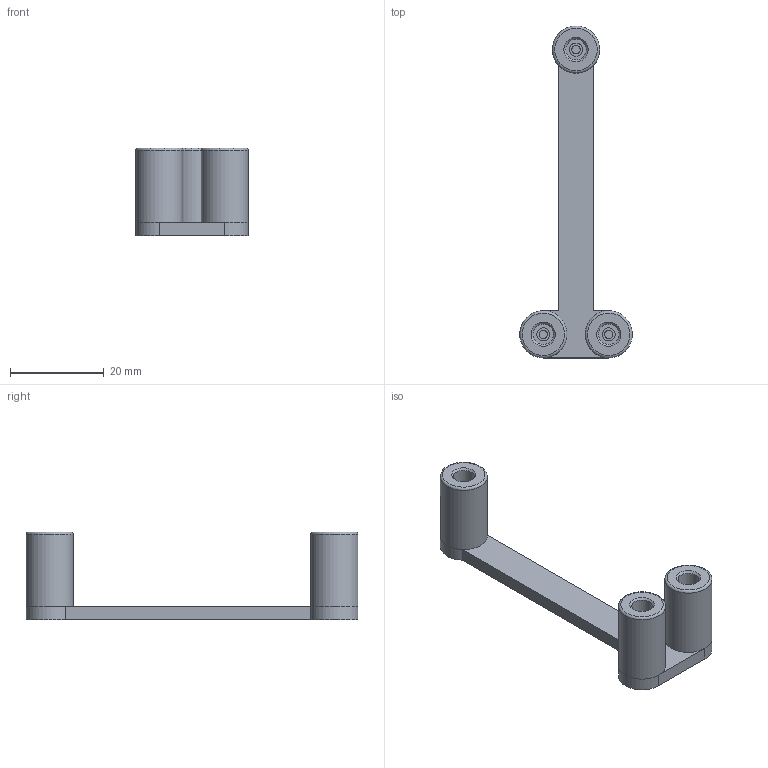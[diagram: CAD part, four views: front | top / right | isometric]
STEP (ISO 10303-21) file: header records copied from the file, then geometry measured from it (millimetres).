
FILE_DESCRIPTION(/* description */ (''),/* implementation_level */ '2;1');
FILE_NAME(/* name */ 'V:\Flow\Inventor\PEEK\Mischertest\Kreuzmischer_PEEK_1,8mm - 0,5Kreuz.stp',/* time_stamp */ '2019-12-20T09:20:17+01:00',/* author */ ('JN'),/* organization */ (''),/* preprocessor_version */ 'ST-DEVELOPER v17',/* originating_system */ 'Autodesk Inventor 2018',/* authorisation */ '');
FILE_SCHEMA (('AUTOMOTIVE_DESIGN { 1 0 10303 214 3 1 1 }'));
Length unit declared in the file: millimetre
Products named in the file (3): Reaktor 1; Reaktor_1_PEEK; 10-32  Gewinde schneiden für Reaktor - lang
Assembly tree (4 placements, depth 2):
  Reaktor 1
    Reaktor_1_PEEK
    10-32  Gewinde schneiden für Reaktor - lang  x3
Bounding box: 24.08 x 70.98 x 18.8 mm (x, y, z)
Volume: 5067.4 mm3; surface area: 5322.5 mm2
Topology: 4 solids, 4 shells, 620 faces, 1835 edges, 1225 vertices
Faces by surface type: plane 599, cylinder 15, torus 3, cone 3
Full cylindrical faces by diameter (mm): 1.8 x3, 2.8 x3, 4.4 x3, 10.08 x3
Entity records: 20446 total; most frequent: CARTESIAN_POINT 3613, ORIENTED_EDGE 3602, DIRECTION 3053, EDGE_CURVE 1801, LINE 1771, VECTOR 1771, VERTEX_POINT 1201, EDGE_LOOP 826
